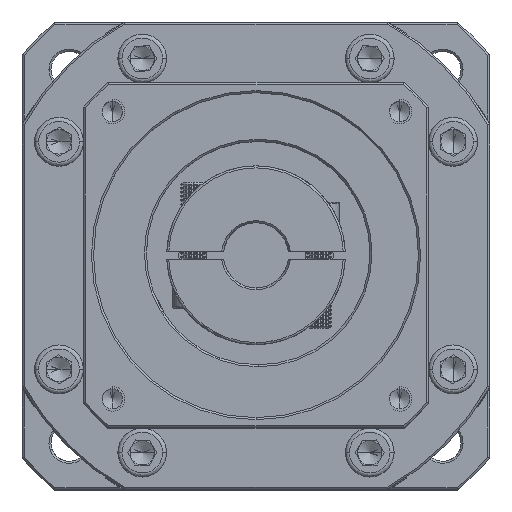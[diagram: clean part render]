
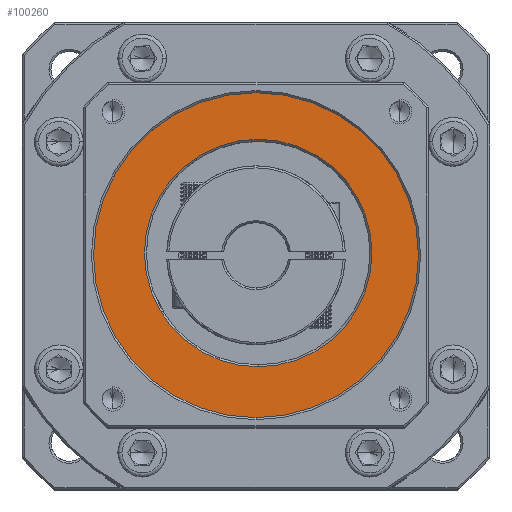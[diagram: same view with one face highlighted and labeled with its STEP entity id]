
A CAD part, top view. The second image highlights one B-rep face of the part: STEP entity #100260.
In plain terms, the highlighted planar face has unit normal (0, 0, 1).
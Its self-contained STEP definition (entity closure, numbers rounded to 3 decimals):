
#685 = DIRECTION ( 'NONE',  ( 0., -1., 0. ) ) ;
#1387 = DIRECTION ( 'NONE',  ( 0., 0., 1. ) ) ;
#8091 = DIRECTION ( 'NONE',  ( 0., -1., 0. ) ) ;
#12455 = AXIS2_PLACEMENT_3D ( 'NONE', #57948, #78899, #25657 ) ;
#15400 = FACE_BOUND ( 'NONE', #47524, .T. ) ;
#20068 = EDGE_CURVE ( 'NONE', #132667, #20848, #111165, .T. ) ;
#20848 = VERTEX_POINT ( 'NONE', #136133 ) ;
#22779 = CIRCLE ( 'NONE', #102394, 28. ) ;
#24762 = AXIS2_PLACEMENT_3D ( 'NONE', #86317, #1387, #86774 ) ;
#25657 = DIRECTION ( 'NONE',  ( 0., -1., 0. ) ) ;
#31064 = CARTESIAN_POINT ( 'NONE',  ( 60.483, 93.049, 11.527 ) ) ;
#38915 = EDGE_LOOP ( 'NONE', ( #109784, #66017 ) ) ;
#40668 = CARTESIAN_POINT ( 'NONE',  ( 60.483, 37.049, 11.527 ) ) ;
#47437 = EDGE_CURVE ( 'NONE', #115346, #92191, #22779, .T. ) ;
#47524 = EDGE_LOOP ( 'NONE', ( #50902, #133879 ) ) ;
#50902 = ORIENTED_EDGE ( 'NONE', *, *, #47437, .T. ) ;
#52533 = CARTESIAN_POINT ( 'NONE',  ( 60.483, 65.049, 11.527 ) ) ;
#57948 = CARTESIAN_POINT ( 'NONE',  ( 60.483, 65.049, 11.527 ) ) ;
#58317 = AXIS2_PLACEMENT_3D ( 'NONE', #66862, #132127, #88755 ) ;
#60214 = CIRCLE ( 'NONE', #12455, 28. ) ;
#61743 = CARTESIAN_POINT ( 'NONE',  ( 59.949, 64.508, 11.527 ) ) ;
#66017 = ORIENTED_EDGE ( 'NONE', *, *, #91671, .T. ) ;
#66862 = CARTESIAN_POINT ( 'NONE',  ( 59.949, 64.508, 11.527 ) ) ;
#71766 = CARTESIAN_POINT ( 'NONE',  ( 59.949, 24.508, 11.527 ) ) ;
#73565 = EDGE_CURVE ( 'NONE', #92191, #115346, #60214, .T. ) ;
#78899 = DIRECTION ( 'NONE',  ( 0., 0., -1. ) ) ;
#78923 = FACE_OUTER_BOUND ( 'NONE', #38915, .T. ) ;
#86317 = CARTESIAN_POINT ( 'NONE',  ( 59.949, 64.508, 11.527 ) ) ;
#86774 = DIRECTION ( 'NONE',  ( 0., -1., 0. ) ) ;
#88755 = DIRECTION ( 'NONE',  ( 0., -1., 0. ) ) ;
#91671 = EDGE_CURVE ( 'NONE', #20848, #132667, #109279, .T. ) ;
#92191 = VERTEX_POINT ( 'NONE', #31064 ) ;
#95352 = DIRECTION ( 'NONE',  ( 0., 0., -1. ) ) ;
#100260 = ADVANCED_FACE ( 'NONE', ( #78923, #15400 ), #136419, .T. ) ;
#102394 = AXIS2_PLACEMENT_3D ( 'NONE', #52533, #95352, #685 ) ;
#103812 = AXIS2_PLACEMENT_3D ( 'NONE', #61743, #113503, #8091 ) ;
#109279 = CIRCLE ( 'NONE', #24762, 40. ) ;
#109784 = ORIENTED_EDGE ( 'NONE', *, *, #20068, .T. ) ;
#111165 = CIRCLE ( 'NONE', #58317, 40. ) ;
#113503 = DIRECTION ( 'NONE',  ( 0., 0., 1. ) ) ;
#115346 = VERTEX_POINT ( 'NONE', #40668 ) ;
#132127 = DIRECTION ( 'NONE',  ( 0., 0., 1. ) ) ;
#132667 = VERTEX_POINT ( 'NONE', #71766 ) ;
#133879 = ORIENTED_EDGE ( 'NONE', *, *, #73565, .T. ) ;
#136133 = CARTESIAN_POINT ( 'NONE',  ( 59.949, 104.508, 11.527 ) ) ;
#136419 = PLANE ( 'NONE',  #103812 ) ;
